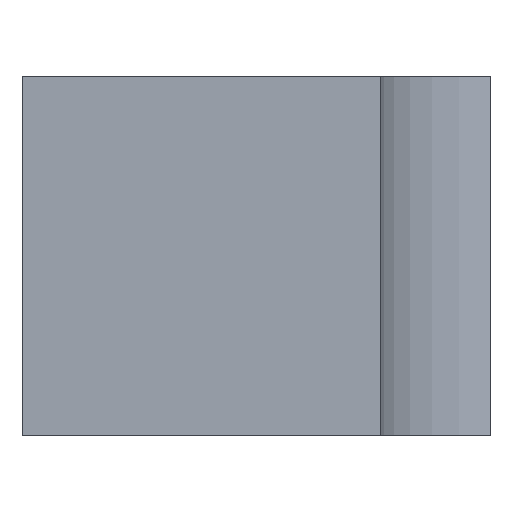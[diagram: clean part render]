
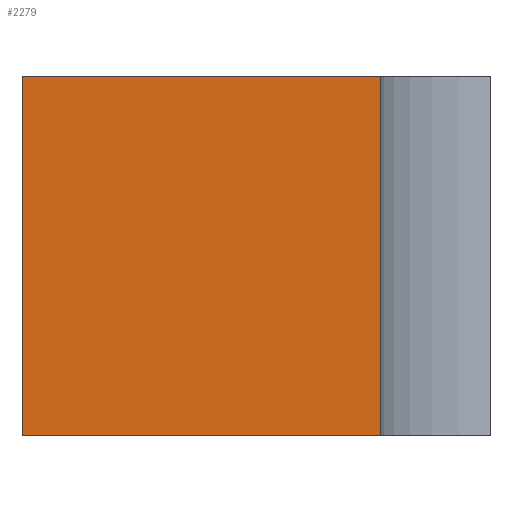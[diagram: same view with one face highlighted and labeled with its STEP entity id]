
A CAD part, left-side view. The second image highlights one B-rep face of the part: STEP entity #2279.
In plain terms, the highlighted planar face has unit normal (-1, 0, 0).
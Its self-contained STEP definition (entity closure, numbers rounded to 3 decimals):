
#75 = VERTEX_POINT ( 'NONE', #1930 ) ;
#315 = VERTEX_POINT ( 'NONE', #2221 ) ;
#570 = CARTESIAN_POINT ( 'NONE',  ( -203.2, 47.63, 36.48 ) ) ;
#620 = CARTESIAN_POINT ( 'NONE',  ( -203.2, 11.13, 36.48 ) ) ;
#716 = ORIENTED_EDGE ( 'NONE', *, *, #2694, .F. ) ;
#873 = ORIENTED_EDGE ( 'NONE', *, *, #1493, .T. ) ;
#898 = CARTESIAN_POINT ( 'NONE',  ( -203.2, 11.13, 36.48 ) ) ;
#1040 = CARTESIAN_POINT ( 'NONE',  ( -203.2, 47.63, 36.48 ) ) ;
#1090 = DIRECTION ( 'NONE',  ( 0., 0., -1. ) ) ;
#1197 = LINE ( 'NONE', #2775, #1937 ) ;
#1241 = VERTEX_POINT ( 'NONE', #1450 ) ;
#1332 = VERTEX_POINT ( 'NONE', #570 ) ;
#1351 = VECTOR ( 'NONE', #1530, 1000. ) ;
#1450 = CARTESIAN_POINT ( 'NONE',  ( -203.2, 11.13, 36.48 ) ) ;
#1462 = EDGE_CURVE ( 'NONE', #1332, #1241, #2206, .T. ) ;
#1493 = EDGE_CURVE ( 'NONE', #1332, #75, #2151, .T. ) ;
#1530 = DIRECTION ( 'NONE',  ( 0., -1., 0. ) ) ;
#1565 = VECTOR ( 'NONE', #1090, 1000. ) ;
#1765 = EDGE_CURVE ( 'NONE', #75, #315, #1197, .T. ) ;
#1930 = CARTESIAN_POINT ( 'NONE',  ( -203.2, 47.63, 0. ) ) ;
#1937 = VECTOR ( 'NONE', #2329, 1000. ) ;
#1987 = AXIS2_PLACEMENT_3D ( 'NONE', #620, #2872, #2847 ) ;
#1996 = CARTESIAN_POINT ( 'NONE',  ( -203.2, 11.13, 36.48 ) ) ;
#2151 = LINE ( 'NONE', #1040, #2899 ) ;
#2164 = ORIENTED_EDGE ( 'NONE', *, *, #1765, .T. ) ;
#2206 = LINE ( 'NONE', #1996, #1351 ) ;
#2221 = CARTESIAN_POINT ( 'NONE',  ( -203.2, 11.13, 0. ) ) ;
#2224 = LINE ( 'NONE', #898, #1565 ) ;
#2276 = EDGE_LOOP ( 'NONE', ( #2164, #716, #2481, #873 ) ) ;
#2279 = ADVANCED_FACE ( 'NONE', ( #2621 ), #2813, .F. ) ;
#2329 = DIRECTION ( 'NONE',  ( 0., -1., 0. ) ) ;
#2481 = ORIENTED_EDGE ( 'NONE', *, *, #1462, .F. ) ;
#2621 = FACE_OUTER_BOUND ( 'NONE', #2276, .T. ) ;
#2694 = EDGE_CURVE ( 'NONE', #1241, #315, #2224, .T. ) ;
#2775 = CARTESIAN_POINT ( 'NONE',  ( -203.2, 11.13, 0. ) ) ;
#2813 = PLANE ( 'NONE',  #1987 ) ;
#2839 = DIRECTION ( 'NONE',  ( 0., 0., -1. ) ) ;
#2847 = DIRECTION ( 'NONE',  ( 0., 0., -1. ) ) ;
#2872 = DIRECTION ( 'NONE',  ( 1., 0., 0. ) ) ;
#2899 = VECTOR ( 'NONE', #2839, 1000. ) ;
